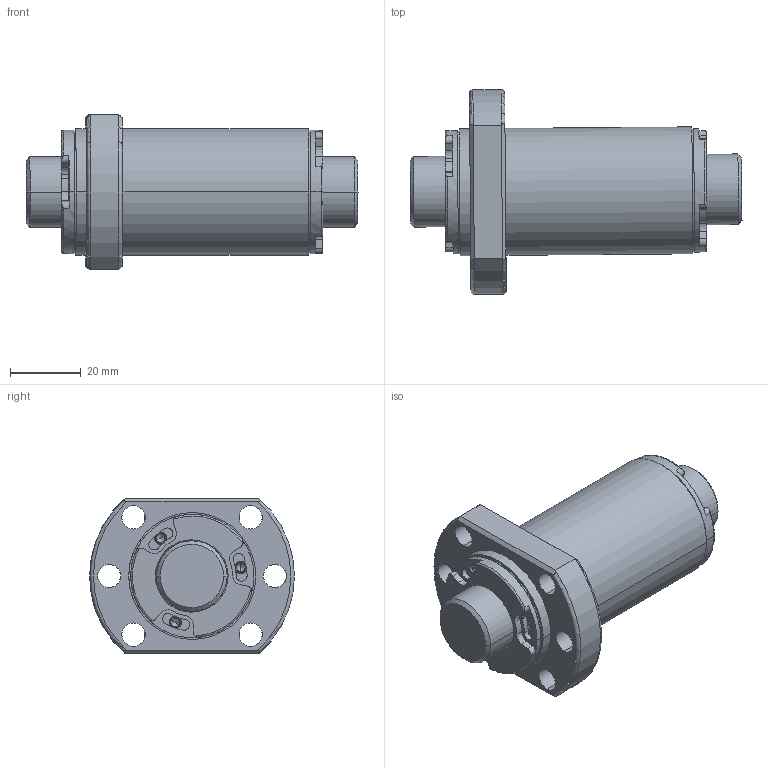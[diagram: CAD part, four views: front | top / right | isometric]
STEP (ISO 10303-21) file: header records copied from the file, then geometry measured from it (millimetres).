
FILE_DESCRIPTION (( 'STEP AP203' ), '1' );
FILE_NAME ('SFHR02020B1D-C.STEP', '2020-06-17T07:59:54', ( '' ), ( '' ), 'SwSTEP 2.0', 'SolidWorks 2013', '' );
FILE_SCHEMA (( 'CONFIG_CONTROL_DESIGN' ));
Length unit declared in the file: millimetre
Products named in the file (1): SFHR02020B1D-C
Bounding box: 94.14 x 58.06 x 44 mm (x, y, z)
Volume: 86086.3 mm3; surface area: 25913.4 mm2
Topology: 2 solids, 2 shells, 241 faces, 614 edges, 386 vertices
Faces by surface type: cylinder 132, plane 69, cone 28, torus 12
Entity records: 7711 total; most frequent: CARTESIAN_POINT 1550, DIRECTION 1426, ORIENTED_EDGE 1204, AXIS2_PLACEMENT_3D 606, EDGE_CURVE 602, VERTEX_POINT 386, CIRCLE 364, EDGE_LOOP 278
